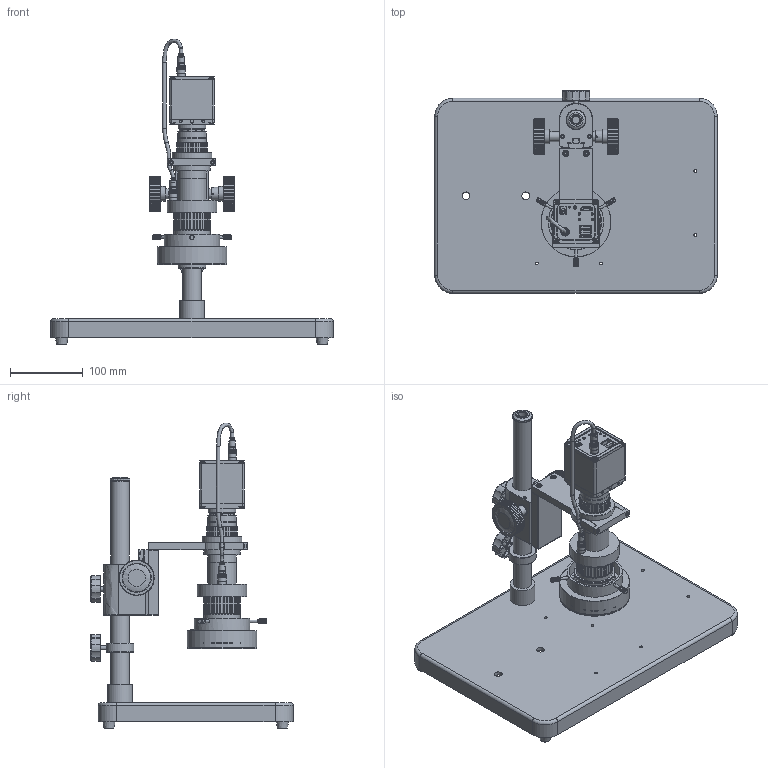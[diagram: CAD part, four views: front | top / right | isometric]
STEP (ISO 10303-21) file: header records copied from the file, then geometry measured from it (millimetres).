
FILE_DESCRIPTION(('STEP AP214'),'1');
FILE_NAME('CT200HD.stp','2025-04-04T07:08:15',(' '),(' '),'Spatial InterOp 3D',' ',' ');
FILE_SCHEMA(('AUTOMOTIVE_DESIGN { 1 0 10303 214 1 1 1 1 }'));
Length unit declared in the file: metre
Products named in the file (8): GR-STD4+GR200HD-CT; Component1; Component2; Component3; Component4; CT200HD; GR80-N2; Component5
Assembly tree (7 placements, depth 3):
  CT200HD
    GR-STD4+GR200HD-CT
      Component1
      Component2
      Component3
      Component4
    GR80-N2
      Component5
Bounding box: 388 x 278.12 x 420.18 mm (x, y, z)
Volume: 1607536 mm3; surface area: 576583.3 mm2
Topology: 8 solids, 10 shells, 4137 faces, 10239 edges, 6149 vertices
Faces by surface type: plane 2594, cylinder 1053, bspline 179, torus 114, cone 98, sphere 88, extrusion 11
Full cylindrical faces by diameter (mm): 1.5 x4, 2.4 x1, 2.5 x1, 2.6 x1, 2.8 x4, 3 x4, 3.3 x6, 3.8 x10, 3.9 x2, 4 x8, 4.1 x3, 4.4 x1, 4.5 x1, 4.8 x80, 4.9 x4, 5.2 x2, 5.4 x8, 5.6 x2, 5.8 x3, 5.9 x6, 6 x6, 6.4 x1, 6.5 x5, 6.9 x3, 7 x4, 7.1 x2, 7.3 x4, 8.5 x2, 9 x2, 9.8 x3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
Entity records: 259737 total; most frequent: CARTESIAN_POINT 86014, DIRECTION 19482, ORIENTED_EDGE 18722, STYLED_ITEM 13506, PRESENTATION_STYLE_ASSIGNMENT 13506, COLOUR_RGB 13506, EDGE_CURVE 9361, CURVE_STYLE 9361
